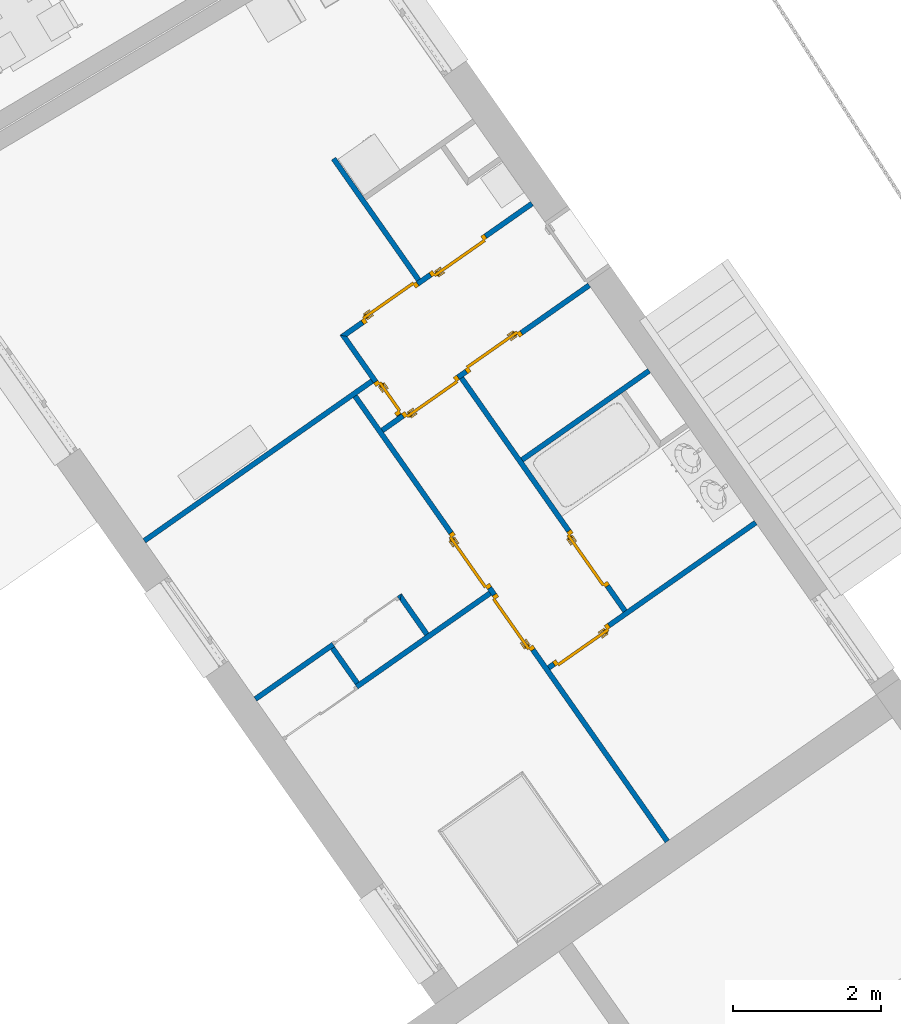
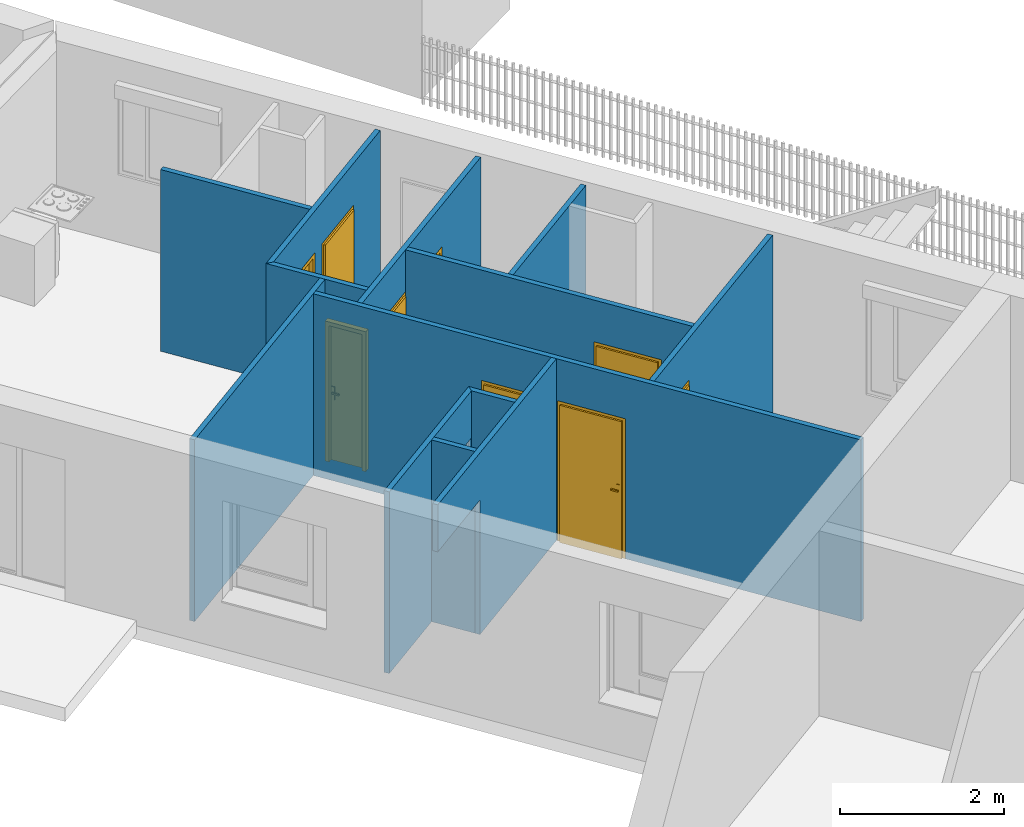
# One storey, part 30 of 195: 13 walls, 9 doors, 11 openings.
"""IFC2X3 building model written with IfcOpenShell, lengths in metres."""

from ifc_helpers import new_model, entity, si_unit, converted_unit, derived_unit, money_unit, direction, frame, origin_with_axes, origin_2d_with_axis, place, context, subcontext, project, spatial, polyline, rectangle, outline, extrude, faceted_brep, source, transform, mapped, material, layer, layer_set, layer_usage, type_object, element, fill, save


model = new_model("IFC2X3")

# Units and contexts
model_context = context("Model", 3, precision=1e-05, world=origin_with_axes(), true_north=direction((0.0, 1.0)))
body_context = subcontext(model_context, "Body", "Model", "MODEL_VIEW")
ifc_project = project(units=[si_unit("LENGTHUNIT", "METRE"), si_unit("AREAUNIT", "SQUARE_METRE"), si_unit("VOLUMEUNIT", "CUBIC_METRE"), converted_unit("PLANEANGLEUNIT", "DEGREE", entity("IfcPlaneAngleMeasure", 0.0174532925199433), si_unit("PLANEANGLEUNIT", "RADIAN"), dimensions=[0, 0, 0, 0, 0, 0, 0]), money_unit("CHF"), converted_unit("TIMEUNIT", "Year", entity("IfcTimeMeasure", 31557600.0), si_unit("TIMEUNIT", "SECOND"), dimensions=[0, 0, 1, 0, 0, 0, 0]), si_unit("MASSUNIT", "GRAM", prefix="KILO"), si_unit("THERMODYNAMICTEMPERATUREUNIT", "DEGREE_CELSIUS"), si_unit("LUMINOUSINTENSITYUNIT", "LUMEN"), si_unit("ENERGYUNIT", "JOULE", prefix="MEGA"), derived_unit("THERMALCONDUCTANCEUNIT", [(si_unit("POWERUNIT", "WATT"), 1), (si_unit("LENGTHUNIT", "METRE"), -1), (si_unit("THERMODYNAMICTEMPERATUREUNIT", "KELVIN"), -1)]), derived_unit("SPECIFICHEATCAPACITYUNIT", [(si_unit("ENERGYUNIT", "JOULE"), 1), (si_unit("MASSUNIT", "GRAM", prefix="KILO"), -1), (si_unit("THERMODYNAMICTEMPERATUREUNIT", "KELVIN"), -1)]), derived_unit("MASSDENSITYUNIT", [(si_unit("MASSUNIT", "GRAM", prefix="KILO"), 1), (si_unit("VOLUMEUNIT", "CUBIC_METRE"), -1)])], contexts=[model_context])

# Site, building, storey
site_placement = place(None, origin_with_axes())
site = spatial("IfcSite", under=ifc_project, at=site_placement, Name="Site", CompositionType="ELEMENT")
building_placement = place(site_placement, origin_with_axes())
building = spatial("IfcBuilding", under=site, at=building_placement, Name="Bâtiment", CompositionType="ELEMENT")
storey_placement = place(building_placement, origin_with_axes())
storey = spatial("IfcBuildingStorey", under=building, at=storey_placement, Name="rdc", CompositionType="ELEMENT", Elevation=0.0)

# Wall, opening
ifc_material = material(Name="Hachure solide 268963992")
ifc_layer = layer(ifc_material, 0.07, ventilated="UNKNOWN")
ifc_layer_set = layer_set([ifc_layer], Name="Cloison 70 0826278243")
ifc_layer_usage_1 = layer_usage(ifc_layer_set, "AXIS2", "POSITIVE", 0.0)
wall_type = type_object("IfcWallType", Name="Cloison 70 0826278243 70", PredefinedType="NOTDEFINED")
wall_1_placement = place(storey_placement, frame((9550.281326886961, -1060.504089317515, 57.7), z_axis=(0.0, 0.0, 1.0), x_axis=(-0.8187432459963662, -0.5741598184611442, 0.0)))
wall_1 = element("IfcWallStandardCase", 1, at=wall_1_placement, inside=storey, type_object=wall_type, material=ifc_layer_usage_1, Name="Mur-149", context=body_context, shape_type="SweptSolid", body=[
    extrude(outline(polyline([(-0.06999999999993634, 0.0), (2.366839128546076, 0.0), (2.366839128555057, 0.07000000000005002), (0.0, 0.07000000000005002), (-0.06999999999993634, 0.0)])), origin_with_axes(), (0.0, 0.0, 1.0), 2.7),
])
opening_1_placement = place(wall_1_placement, frame((0.5401857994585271, 0.0, 0.0), z_axis=(0.0, 0.0, 1.0), x_axis=(1.0, 0.0, 0.0)))
element("IfcOpeningElement", 2, at=opening_1_placement, cuts=wall_1, Name="Por-346", context=body_context, shape_type="SweptSolid", body=[
    extrude(rectangle(XDim=1.080371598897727, YDim=2.0, at=origin_2d_with_axis()), frame((0.0, 0.0, 1.0), z_axis=(0.0, 1.0, 0.0), x_axis=(1.0, 0.0, 0.0)), (0.0, 0.0, -1.0), 0.07),
    extrude(rectangle(XDim=1.080371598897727, YDim=2.0, at=origin_2d_with_axis()), frame((0.0, 0.0, 1.0), z_axis=(0.0, -1.0, 0.0), x_axis=(1.0, 0.0, 0.0)), (0.0, 0.0, -1.0), 0.07),
])

# Wall
ifc_layer_usage_2 = layer_usage(ifc_layer_set, "AXIS2", "POSITIVE", 0.0)
wall_2_placement = place(storey_placement, frame((9549.339467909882, -1061.164586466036, 57.7), z_axis=(0.0, 0.0, 1.0), x_axis=(0.5741598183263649, -0.8187432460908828, 0.0)))
element("IfcWallStandardCase", 3, at=wall_2_placement, inside=storey, type_object=wall_type, material=ifc_layer_usage_2, Name="Mur-149", context=body_context, shape_type="SweptSolid", body=[
    extrude(outline(polyline([(0.06999999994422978, 0.0), (0.649992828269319, 0.0), (0.6499928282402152, 0.06999999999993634), (0.06999999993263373, 0.07000000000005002), (0.06999999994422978, 0.0)])), origin_with_axes(), (0.0, 0.0, 1.0), 2.7),
])

# Wall, opening
ifc_layer_usage_3 = layer_usage(ifc_layer_set, "AXIS2", "POSITIVE", 0.0)
wall_3_placement = place(storey_placement, frame((9551.575044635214, -1060.390735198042, 57.7), z_axis=(0.0, 0.0, 1.0), x_axis=(-0.8187432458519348, -0.574159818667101, 0.0)))
wall_3 = element("IfcWallStandardCase", 4, at=wall_3_placement, inside=storey, type_object=wall_type, material=ifc_layer_usage_3, Name="Mur-149", context=body_context, shape_type="SweptSolid", body=[
    extrude(outline(polyline([(0.06999999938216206, 0.0), (3.491145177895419, 0.0), (3.491145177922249, 0.07000000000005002), (0.06999999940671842, 0.07000000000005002), (0.06999999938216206, 0.0)])), origin_with_axes(), (0.0, 0.0, 1.0), 2.7),
])
opening_2_placement = place(wall_3_placement, frame((2.882911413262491, 0.0, 0.0), z_axis=(0.0, 0.0, 1.0), x_axis=(1.0, 0.0, 0.0)))
element("IfcOpeningElement", 5, at=opening_2_placement, cuts=wall_3, Name="Por-345", context=body_context, shape_type="SweptSolid", body=[
    extrude(rectangle(XDim=1.216467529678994, YDim=2.0, at=origin_2d_with_axis()), frame((0.0, 0.06999999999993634, 1.0), z_axis=(0.0, -1.0, 0.0), x_axis=(1.0, 0.0, 0.0)), (0.0, 0.0, -1.0), 0.07),
    extrude(rectangle(XDim=1.216467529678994, YDim=2.0, at=origin_2d_with_axis()), frame((0.0, 0.06999999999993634, 1.0), z_axis=(0.0, 1.0, 0.0), x_axis=(1.0, 0.0, 0.0)), (0.0, 0.0, -1.0), 0.07),
])

# Walls
ifc_layer_usage_4 = layer_usage(ifc_layer_set, "AXIS2", "POSITIVE", 0.0)
wall_4_placement = place(storey_placement, frame((9550.281326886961, -1060.504089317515, 57.7), z_axis=(0.0, 0.0, 1.0), x_axis=(0.5741598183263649, -0.8187432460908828, 0.0)))
element("IfcWallStandardCase", 6, at=wall_4_placement, inside=storey, type_object=wall_type, material=ifc_layer_usage_4, Name="Mur-149", context=body_context, shape_type="SweptSolid", body=[
    extrude(outline(polyline([(0.06999999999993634, 0.0), (0.6499928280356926, 0.0), (0.6499928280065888, 0.06999999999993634), (0.0, 0.06999999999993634), (0.06999999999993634, 0.0)])), origin_with_axes(), (0.0, 0.0, 1.0), 2.7),
])
ifc_layer_usage_5 = layer_usage(ifc_layer_set, "AXIS2", "POSITIVE", 0.0)
wall_5_placement = place(storey_placement, frame((9553.980375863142, -1057.204478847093, 57.7), z_axis=(0.0, 0.0, 1.0), x_axis=(-0.8187432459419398, -0.5741598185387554, 0.0)))
element("IfcWallStandardCase", 7, at=wall_5_placement, inside=storey, type_object=wall_type, material=ifc_layer_usage_5, Name="Mur-149", context=body_context, shape_type="SweptSolid", body=[
    extrude(outline(polyline([(0.3799999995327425, 0.0), (2.478769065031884, 0.0), (2.478769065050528, 0.07000000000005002), (0.3799999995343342, 0.07000000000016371), (0.3799999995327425, 0.0)])), origin_with_axes(), (0.0, 0.0, 1.0), 2.7),
])
ifc_layer_usage_6 = layer_usage(ifc_layer_set, "AXIS2", "POSITIVE", 0.0)
wall_6_placement = place(storey_placement, frame((9550.600009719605, -1056.203730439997, 57.7), z_axis=(0.0, 0.0, 1.0), x_axis=(-0.5741598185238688, 0.8187432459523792, 0.0)))
element("IfcWallStandardCase", 8, at=wall_6_placement, inside=storey, type_object=wall_type, material=ifc_layer_usage_6, Name="Mur-149", context=body_context, shape_type="SweptSolid", body=[
    extrude(outline(polyline([(-1.513740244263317e-09, 0.0), (2.003969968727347, 0.0), (2.003969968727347, 0.06999999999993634), (-1.521243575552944e-09, 0.06999999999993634), (-1.513740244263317e-09, 0.0)])), origin_with_axes(), (0.0, 0.0, 1.0), 2.7),
])

# Wall, openings, doors
ifc_layer_usage_7 = layer_usage(ifc_layer_set, "AXIS2", "POSITIVE", 0.0)
wall_7_placement = place(storey_placement, frame((9553.169819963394, -1056.048638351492, 57.7), z_axis=(0.0, 0.0, 1.0), x_axis=(-0.8187432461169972, -0.574159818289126, 0.0)))
wall_7 = element("IfcWallStandardCase", 9, at=wall_7_placement, inside=storey, type_object=wall_type, material=ifc_layer_usage_7, Name="Mur-149", context=body_context, shape_type="SweptSolid", body=[
    extrude(outline(polyline([(0.3800000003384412, 0.0), (3.798769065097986, 0.0), (3.798769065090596, 0.07000000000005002), (0.380000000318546, 0.07000000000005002), (0.3800000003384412, 0.0)])), origin_with_axes(), (0.0, 0.0, 1.0), 2.7),
])
opening_3_placement = place(wall_7_placement, frame((1.956257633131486, 0.0, 0.0), z_axis=(0.0, 0.0, 1.0), x_axis=(1.0, 0.0, 0.0)))
opening_3 = element("IfcOpeningElement", 10, at=opening_3_placement, cuts=wall_7, Name="Por-299", context=body_context, shape_type="SweptSolid", body=[
    extrude(rectangle(XDim=0.9099999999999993, YDim=2.079999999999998, at=origin_2d_with_axis()), frame((0.0, 0.07000000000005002, 1.039999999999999), z_axis=(0.0, 1.0, 0.0), x_axis=(1.0, 0.0, 0.0)), (0.0, 0.0, -1.0), 0.14),
])
opening_4_placement = place(wall_7_placement, frame((3.002404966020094, 0.0, 0.0), z_axis=(0.0, 0.0, 1.0), x_axis=(1.0, 0.0, 0.0)))
opening_4 = element("IfcOpeningElement", 11, at=opening_4_placement, cuts=wall_7, Name="Por-299", context=body_context, shape_type="SweptSolid", body=[
    extrude(rectangle(XDim=0.9099999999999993, YDim=2.079999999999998, at=origin_2d_with_axis()), frame((0.0, -0.06999999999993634, 1.039999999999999), z_axis=(0.0, -1.0, 0.0), x_axis=(-1.0, 0.0, 0.0)), (0.0, 0.0, -1.0), 0.14),
])
door_style = type_object("IfcDoorStyle", Name="Porte_1v", ConstructionType="NOTDEFINED", OperationType="NOTDEFINED", ParameterTakesPrecedence=False, Sizeable=False)
shared_shape_1 = source(origin_with_axes(), body_context, "Body", "Brep", [
    faceted_brep([(-0.455, 0.0, 0.0), (-0.455, 0.0, 2.08), (0.455, 0.0, 2.08), (0.455, 0.0, 0.0), (0.415, 0.0, 0.0), (0.415, 0.0, 2.04), (-0.415, 0.0, 2.04), (-0.415, 0.0, 0.0), (-0.455, -0.07, 0.0), (-0.455, -0.07, 2.08), (0.455, -0.07, 2.08), (0.455, -0.07, 0.0), (0.4, -0.07, 0.0), (0.4, -0.015, 0.0), (0.415, -0.015, 0.0), (0.415, -0.015, 2.04), (-0.415, -0.015, 2.04), (-0.415, -0.015, 0.0), (-0.4, -0.015, 0.0), (-0.4, -0.07, 0.0), (-0.4, -0.07, 2.025), (0.4, -0.07, 2.025), (0.4, -0.015, 2.025), (-0.4, -0.015, 2.025)], [[[0, 1, 2, 3, 4, 5, 6, 7]], [[8, 9, 1, 0]], [[9, 10, 2, 1]], [[10, 11, 3, 2]], [[3, 11, 12, 13, 14, 4]], [[5, 4, 14, 15]], [[6, 5, 15, 16]], [[7, 6, 16, 17]], [[0, 7, 17, 18, 19, 8]], [[19, 20, 21, 12, 11, 10, 9, 8]], [[22, 13, 12, 21]], [[17, 16, 15, 14, 13, 22, 23, 18]], [[18, 23, 20, 19]], [[23, 22, 21, 20]]]),
    faceted_brep([(0.35, -0.015, 0.9), (0.35, -0.015, 1.1), (0.39, -0.015, 1.1), (0.39, -0.015, 0.9), (0.35, -0.025, 0.9), (0.35, -0.025, 1.1), (0.39, -0.025, 1.1), (0.39, -0.025, 0.9)], [[[0, 1, 2, 3]], [[0, 4, 5, 1]], [[1, 5, 6, 2]], [[2, 6, 7, 3]], [[3, 7, 4, 0]], [[7, 6, 5, 4]]]),
    faceted_brep([(0.28, -0.025, 1.0), (0.28, -0.025, 1.02), (0.38, -0.025, 1.02), (0.38, -0.025, 1.0), (0.28, -0.045, 1.0), (0.28, -0.045, 1.02), (0.38, -0.045, 1.02), (0.38, -0.045, 1.0)], [[[0, 1, 2, 3]], [[0, 4, 5, 1]], [[1, 5, 6, 2]], [[2, 6, 7, 3]], [[3, 7, 4, 0]], [[7, 6, 5, 4]]]),
    faceted_brep([(0.35, 0.035, 0.9), (0.35, 0.035, 1.1), (0.39, 0.035, 1.1), (0.39, 0.035, 0.9), (0.35, 0.025, 0.9), (0.35, 0.025, 1.1), (0.39, 0.025, 1.1), (0.39, 0.025, 0.9)], [[[0, 1, 2, 3]], [[0, 4, 5, 1]], [[1, 5, 6, 2]], [[2, 6, 7, 3]], [[3, 7, 4, 0]], [[7, 6, 5, 4]]]),
    faceted_brep([(0.28, 0.05500000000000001, 1.0), (0.28, 0.05500000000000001, 1.02), (0.38, 0.05500000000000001, 1.02), (0.38, 0.05500000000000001, 1.0), (0.28, 0.035, 1.0), (0.28, 0.035, 1.02), (0.38, 0.035, 1.02), (0.38, 0.035, 1.0)], [[[0, 1, 2, 3]], [[0, 4, 5, 1]], [[1, 5, 6, 2]], [[2, 6, 7, 3]], [[3, 7, 4, 0]], [[7, 6, 5, 4]]]),
    faceted_brep([(0.415, 0.025, 0.0), (0.415, -0.015, 0.0), (-0.415, -0.015, 0.0), (-0.415, 0.025, 0.0), (0.415, 0.025, 2.04), (0.415, -0.015, 2.04), (-0.415, -0.015, 2.04), (-0.415, 0.025, 2.04)], [[[0, 1, 2, 3]], [[4, 5, 1, 0]], [[1, 5, 6, 2]], [[3, 2, 6, 7]], [[0, 3, 7, 4]], [[7, 6, 5, 4]]]),
])
door_1_placement = place(opening_3_placement, frame((0.4149999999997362, 0.0, 0.0), z_axis=(0.0, 0.0, 1.0), x_axis=(-1.0, 0.0, 0.0)))
door_1 = element("IfcDoor", 12, at=door_1_placement, inside=storey, type_object=door_style, Name="Por-299", OverallHeight=2.04, OverallWidth=0.83, context=body_context, shape_type="MappedRepresentation", body=[
    mapped(shared_shape_1, transform((0.4149999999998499, 0.0, 0.0))),
])
fill(opening_3, door_1)
door_2_placement = place(opening_4_placement, frame((-0.4150000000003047, 0.0, 0.0), z_axis=(0.0, 0.0, 1.0), x_axis=(1.0, 0.0, 0.0)))
door_2 = element("IfcDoor", 13, at=door_2_placement, inside=storey, type_object=door_style, Name="Por-299", OverallHeight=2.04, OverallWidth=0.83, context=body_context, shape_type="MappedRepresentation", body=[
    mapped(shared_shape_1, transform((0.4150000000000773, 0.06999999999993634, 0.0))),
])
fill(opening_4, door_2)

ifc_layer_usage_8 = layer_usage(ifc_layer_set, "AXIS2", "NEGATIVE", 0.0)
wall_8_placement = place(storey_placement, frame((9549.50640893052, -1056.970639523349, 57.7), z_axis=(0.0, 0.0, 1.0), x_axis=(0.8187432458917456, 0.5741598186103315, 0.0)))
wall_8 = element("IfcWallStandardCase", 14, at=wall_8_placement, inside=storey, type_object=wall_type, material=ifc_layer_usage_8, Name="Mur-149", context=body_context, shape_type="SweptSolid", body=[
    extrude(outline(polyline([(0.0700000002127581, -0.07000000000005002), (3.148769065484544, -0.07000000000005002), (3.148769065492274, 0.0), (1.907665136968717e-10, 0.0), (0.0700000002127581, -0.07000000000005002)])), origin_with_axes(), (0.0, 0.0, 1.0), 2.7),
])
opening_5_placement = place(wall_8_placement, frame((1.926126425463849, 0.0, 0.0), z_axis=(0.0, 0.0, 1.0), x_axis=(1.0, 0.0, 0.0)))
opening_5 = element("IfcOpeningElement", 15, at=opening_5_placement, cuts=wall_8, Name="Por-299", context=body_context, shape_type="SweptSolid", body=[
    extrude(rectangle(XDim=0.9099999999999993, YDim=2.079999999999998, at=origin_2d_with_axis()), frame((0.0, 0.06999999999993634, 1.039999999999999), z_axis=(0.0, 1.0, 0.0), x_axis=(1.0, 0.0, 0.0)), (0.0, 0.0, -1.0), 0.14),
])
opening_6_placement = place(wall_8_placement, frame((0.8050034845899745, 0.0, 0.0), z_axis=(0.0, 0.0, 1.0), x_axis=(1.0, 0.0, 0.0)))
opening_6 = element("IfcOpeningElement", 16, at=opening_6_placement, cuts=wall_8, Name="Por-299", context=body_context, shape_type="SweptSolid", body=[
    extrude(rectangle(XDim=0.9099999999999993, YDim=2.079999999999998, at=origin_2d_with_axis()), frame((0.0, -0.07000000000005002, 1.039999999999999), z_axis=(0.0, 1.0, 0.0), x_axis=(1.0, 0.0, 0.0)), (0.0, 0.0, 1.0), 0.14),
])
shared_shape_2 = source(origin_with_axes(), body_context, "Body", "Brep", [
    faceted_brep([(0.455, 0.0, 0.0), (0.415, 0.0, 0.0), (0.415, 0.0, 2.04), (-0.415, 0.0, 2.04), (-0.415, 0.0, 0.0), (-0.455, 0.0, 0.0), (-0.455, 0.0, 2.08), (0.455, 0.0, 2.08), (0.455, -0.07, 0.0), (0.4, -0.07, 0.0), (0.4, -0.015, 0.0), (0.415, -0.015, 0.0), (0.415, -0.015, 2.04), (-0.415, -0.015, 2.04), (-0.415, -0.015, 0.0), (-0.4, -0.015, 0.0), (-0.4, -0.07, 0.0), (-0.455, -0.07, 0.0), (-0.455, -0.07, 2.08), (0.455, -0.07, 2.08), (-0.4, -0.07, 2.025), (0.4, -0.07, 2.025), (0.4, -0.015, 2.025), (-0.4, -0.015, 2.025)], [[[0, 1, 2, 3, 4, 5, 6, 7]], [[0, 8, 9, 10, 11, 1]], [[1, 11, 12, 2]], [[2, 12, 13, 3]], [[3, 13, 14, 4]], [[5, 4, 14, 15, 16, 17]], [[18, 6, 5, 17]], [[19, 7, 6, 18]], [[8, 0, 7, 19]], [[9, 8, 19, 18, 17, 16, 20, 21]], [[10, 9, 21, 22]], [[11, 10, 22, 23, 15, 14, 13, 12]], [[23, 20, 16, 15]], [[22, 21, 20, 23]]]),
    faceted_brep([(-0.35, -0.015, 0.9), (-0.39, -0.015, 0.9), (-0.39, -0.015, 1.1), (-0.35, -0.015, 1.1), (-0.35, -0.025, 0.9), (-0.39, -0.025, 0.9), (-0.39, -0.025, 1.1), (-0.35, -0.025, 1.1)], [[[0, 1, 2, 3]], [[1, 0, 4, 5]], [[2, 1, 5, 6]], [[3, 2, 6, 7]], [[0, 3, 7, 4]], [[5, 4, 7, 6]]]),
    faceted_brep([(-0.28, -0.025, 1.0), (-0.38, -0.025, 1.0), (-0.38, -0.025, 1.02), (-0.28, -0.025, 1.02), (-0.28, -0.045, 1.0), (-0.38, -0.045, 1.0), (-0.38, -0.045, 1.02), (-0.28, -0.045, 1.02)], [[[0, 1, 2, 3]], [[1, 0, 4, 5]], [[2, 1, 5, 6]], [[3, 2, 6, 7]], [[0, 3, 7, 4]], [[5, 4, 7, 6]]]),
    faceted_brep([(-0.35, 0.035, 0.9), (-0.39, 0.035, 0.9), (-0.39, 0.035, 1.1), (-0.35, 0.035, 1.1), (-0.35, 0.025, 0.9), (-0.39, 0.025, 0.9), (-0.39, 0.025, 1.1), (-0.35, 0.025, 1.1)], [[[0, 1, 2, 3]], [[1, 0, 4, 5]], [[2, 1, 5, 6]], [[3, 2, 6, 7]], [[0, 3, 7, 4]], [[5, 4, 7, 6]]]),
    faceted_brep([(-0.28, 0.05500000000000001, 1.0), (-0.38, 0.05500000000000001, 1.0), (-0.38, 0.05500000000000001, 1.02), (-0.28, 0.05500000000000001, 1.02), (-0.28, 0.035, 1.0), (-0.38, 0.035, 1.0), (-0.38, 0.035, 1.02), (-0.28, 0.035, 1.02)], [[[0, 1, 2, 3]], [[1, 0, 4, 5]], [[2, 1, 5, 6]], [[3, 2, 6, 7]], [[0, 3, 7, 4]], [[5, 4, 7, 6]]]),
    faceted_brep([(-0.415, 0.025, 0.0), (0.415, 0.025, 0.0), (0.415, -0.015, 0.0), (-0.415, -0.015, 0.0), (-0.415, 0.025, 2.04), (0.415, 0.025, 2.04), (0.415, -0.015, 2.04), (-0.415, -0.015, 2.04)], [[[0, 1, 2, 3]], [[0, 4, 5, 1]], [[1, 5, 6, 2]], [[3, 2, 6, 7]], [[4, 0, 3, 7]], [[5, 4, 7, 6]]]),
])
door_3_placement = place(opening_6_placement, frame((-0.415000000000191, 0.0, 0.0), z_axis=(0.0, 0.0, 1.0), x_axis=(1.0, 0.0, 0.0)))
door_3 = element("IfcDoor", 17, at=door_3_placement, inside=storey, type_object=door_style, Name="Por-299", OverallHeight=2.04, OverallWidth=0.83, context=body_context, shape_type="MappedRepresentation", body=[
    mapped(shared_shape_2, transform((0.4149999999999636, 0.0, 0.0))),
])
fill(opening_6, door_3)
door_4_placement = place(opening_5_placement, frame((0.4149999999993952, 0.0, 0.0), z_axis=(0.0, 0.0, 1.0), x_axis=(-1.0, 0.0, 0.0)))
door_4 = element("IfcDoor", 18, at=door_4_placement, inside=storey, type_object=door_style, Name="Por-299", OverallHeight=2.04, OverallWidth=0.83, context=body_context, shape_type="MappedRepresentation", body=[
    mapped(shared_shape_1, transform((0.4149999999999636, 0.07000000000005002, 0.0))),
])
fill(opening_5, door_4)

# Wall, opening, door
ifc_layer_usage_9 = layer_usage(ifc_layer_set, "AXIS2", "POSITIVE", 0.0)
wall_9_placement = place(storey_placement, frame((9553.391102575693, -1060.681394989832, 57.7), z_axis=(0.0, 0.0, 1.0), x_axis=(-0.5741598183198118, 0.8187432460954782, 0.0)))
wall_9 = element("IfcWallStandardCase", 19, at=wall_9_placement, inside=storey, type_object=wall_type, material=ifc_layer_usage_9, Name="Mur-149", context=body_context, shape_type="SweptSolid", body=[
    extrude(outline(polyline([(-1.739181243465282e-09, 0.0), (3.850089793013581, 0.0), (3.850089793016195, 0.07000000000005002), (-1.784428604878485e-09, 0.06999999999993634), (-1.739181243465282e-09, 0.0)])), origin_with_axes(), (0.0, 0.0, 1.0), 2.7),
])
opening_7_placement = place(wall_9_placement, frame((0.8689503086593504, 0.0, 0.0), z_axis=(0.0, 0.0, 1.0), x_axis=(1.0, 0.0, 0.0)))
opening_7 = element("IfcOpeningElement", 20, at=opening_7_placement, cuts=wall_9, Name="Por-299", context=body_context, shape_type="SweptSolid", body=[
    extrude(rectangle(XDim=0.9099999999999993, YDim=2.079999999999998, at=origin_2d_with_axis()), frame((0.0, -0.07000000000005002, 1.039999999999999), z_axis=(0.0, -1.0, 0.0), x_axis=(-1.0, 0.0, 0.0)), (0.0, 0.0, -1.0), 0.14),
])
door_5_placement = place(opening_7_placement, frame((-0.4150000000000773, 0.0, 0.0), z_axis=(0.0, 0.0, 1.0), x_axis=(1.0, 0.0, 0.0)))
door_5 = element("IfcDoor", 21, at=door_5_placement, inside=storey, type_object=door_style, Name="Por-299", OverallHeight=2.04, OverallWidth=0.83, context=body_context, shape_type="MappedRepresentation", body=[
    mapped(shared_shape_1, transform((0.4149999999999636, 0.06999999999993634, 0.0))),
])
fill(opening_7, door_5)

ifc_layer_usage_10 = layer_usage(ifc_layer_set, "AXIS2", "POSITIVE", 0.0)
wall_10_placement = place(storey_placement, frame((9549.506408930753, -1056.970639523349, 57.7), z_axis=(0.0, 0.0, 1.0), x_axis=(0.5741598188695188, -0.8187432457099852, 0.0)))
wall_10 = element("IfcWallStandardCase", 22, at=wall_10_placement, inside=storey, type_object=wall_type, material=ifc_layer_usage_10, Name="Mur-149", context=body_context, shape_type="SweptSolid", body=[
    extrude(outline(polyline([(-1.335820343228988e-10, 0.0), (1.34850118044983, 0.0), (1.348501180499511, 0.07000000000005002), (0.06999999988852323, 0.06999999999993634), (-1.335820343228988e-10, 0.0)])), origin_with_axes(), (0.0, 0.0, 1.0), 2.7),
])
opening_8_placement = place(wall_10_placement, frame((1.067283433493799, 0.0, 0.0), z_axis=(0.0, 0.0, 1.0), x_axis=(1.0, 0.0, 0.0)))
opening_8 = element("IfcOpeningElement", 23, at=opening_8_placement, cuts=wall_10, Name="Por-320", context=body_context, shape_type="SweptSolid", body=[
    extrude(rectangle(XDim=0.547405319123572, YDim=2.079999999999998, at=origin_2d_with_axis()), frame((-2.722799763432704e-09, -0.07000000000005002, 1.039999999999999), z_axis=(0.0, 1.0, 0.0), x_axis=(1.0, 0.0, 0.0)), (0.0, 0.0, 1.0), 0.14),
])
shared_shape_3 = source(origin_with_axes(), body_context, "Body", "Brep", [
    faceted_brep([(0.2737026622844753, 0.0, 0.0), (0.2337026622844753, 0.0, 0.0), (0.2337026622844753, 0.0, 2.04), (-0.2337026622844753, 0.0, 2.04), (-0.2337026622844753, 0.0, 0.0), (-0.2737026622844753, 0.0, 0.0), (-0.2737026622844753, 0.0, 2.08), (0.2737026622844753, 0.0, 2.08), (0.2737026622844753, -0.07, 0.0), (0.2187026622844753, -0.07, 0.0), (0.2187026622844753, -0.015, 0.0), (0.2337026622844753, -0.015, 0.0), (0.2337026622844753, -0.015, 2.04), (-0.2337026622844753, -0.015, 2.04), (-0.2337026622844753, -0.015, 0.0), (-0.2187026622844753, -0.015, 0.0), (-0.2187026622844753, -0.07, 0.0), (-0.2737026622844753, -0.07, 0.0), (-0.2737026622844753, -0.07, 2.08), (0.2737026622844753, -0.07, 2.08), (-0.2187026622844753, -0.07, 2.025), (0.2187026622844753, -0.07, 2.025), (0.2187026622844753, -0.015, 2.025), (-0.2187026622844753, -0.015, 2.025)], [[[0, 1, 2, 3, 4, 5, 6, 7]], [[0, 8, 9, 10, 11, 1]], [[1, 11, 12, 2]], [[2, 12, 13, 3]], [[3, 13, 14, 4]], [[5, 4, 14, 15, 16, 17]], [[18, 6, 5, 17]], [[19, 7, 6, 18]], [[8, 0, 7, 19]], [[9, 8, 19, 18, 17, 16, 20, 21]], [[10, 9, 21, 22]], [[11, 10, 22, 23, 15, 14, 13, 12]], [[23, 20, 16, 15]], [[22, 21, 20, 23]]]),
    faceted_brep([(-0.1687026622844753, -0.015, 0.9), (-0.2087026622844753, -0.015, 0.9), (-0.2087026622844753, -0.015, 1.1), (-0.1687026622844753, -0.015, 1.1), (-0.1687026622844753, -0.025, 0.9), (-0.2087026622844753, -0.025, 0.9), (-0.2087026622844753, -0.025, 1.1), (-0.1687026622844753, -0.025, 1.1)], [[[0, 1, 2, 3]], [[1, 0, 4, 5]], [[2, 1, 5, 6]], [[3, 2, 6, 7]], [[0, 3, 7, 4]], [[5, 4, 7, 6]]]),
    faceted_brep([(-0.0987026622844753, -0.025, 1.0), (-0.1987026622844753, -0.025, 1.0), (-0.1987026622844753, -0.025, 1.02), (-0.0987026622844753, -0.025, 1.02), (-0.0987026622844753, -0.045, 1.0), (-0.1987026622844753, -0.045, 1.0), (-0.1987026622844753, -0.045, 1.02), (-0.0987026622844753, -0.045, 1.02)], [[[0, 1, 2, 3]], [[1, 0, 4, 5]], [[2, 1, 5, 6]], [[3, 2, 6, 7]], [[0, 3, 7, 4]], [[5, 4, 7, 6]]]),
    faceted_brep([(-0.1687026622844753, 0.035, 0.9), (-0.2087026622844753, 0.035, 0.9), (-0.2087026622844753, 0.035, 1.1), (-0.1687026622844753, 0.035, 1.1), (-0.1687026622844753, 0.025, 0.9), (-0.2087026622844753, 0.025, 0.9), (-0.2087026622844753, 0.025, 1.1), (-0.1687026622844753, 0.025, 1.1)], [[[0, 1, 2, 3]], [[1, 0, 4, 5]], [[2, 1, 5, 6]], [[3, 2, 6, 7]], [[0, 3, 7, 4]], [[5, 4, 7, 6]]]),
    faceted_brep([(-0.0987026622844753, 0.05500000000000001, 1.0), (-0.1987026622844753, 0.05500000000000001, 1.0), (-0.1987026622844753, 0.05500000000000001, 1.02), (-0.0987026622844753, 0.05500000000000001, 1.02), (-0.0987026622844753, 0.035, 1.0), (-0.1987026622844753, 0.035, 1.0), (-0.1987026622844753, 0.035, 1.02), (-0.0987026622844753, 0.035, 1.02)], [[[0, 1, 2, 3]], [[1, 0, 4, 5]], [[2, 1, 5, 6]], [[3, 2, 6, 7]], [[0, 3, 7, 4]], [[5, 4, 7, 6]]]),
    faceted_brep([(-0.2337026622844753, 0.025, 0.0), (0.2337026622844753, 0.025, 0.0), (0.2337026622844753, -0.015, 0.0), (-0.2337026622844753, -0.015, 0.0), (-0.2337026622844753, 0.025, 2.04), (0.2337026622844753, 0.025, 2.04), (0.2337026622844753, -0.015, 2.04), (-0.2337026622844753, -0.015, 2.04)], [[[0, 1, 2, 3]], [[0, 4, 5, 1]], [[1, 5, 6, 2]], [[3, 2, 6, 7]], [[4, 0, 3, 7]], [[5, 4, 7, 6]]]),
])
door_6_placement = place(opening_8_placement, frame((-0.2337026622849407, 0.0, 0.0), z_axis=(0.0, 0.0, 1.0), x_axis=(1.0, 0.0, 0.0)))
door_6 = element("IfcDoor", 24, at=door_6_placement, inside=storey, type_object=door_style, Name="Por-320", OverallHeight=2.04, OverallWidth=0.467405, context=body_context, shape_type="MappedRepresentation", body=[
    mapped(shared_shape_3, transform((0.233702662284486, 0.07000000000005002, 0.0))),
])
fill(opening_8, door_6)

# Wall
ifc_layer_usage_11 = layer_usage(ifc_layer_set, "AXIS2", "NEGATIVE", 0.0)
wall_11_placement = place(storey_placement, frame((9549.9620568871, -1057.620386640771, 57.7), z_axis=(0.0, 0.0, 1.0), x_axis=(-0.8187432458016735, -0.5741598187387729, 0.0)))
element("IfcWallStandardCase", 25, at=wall_11_placement, inside=storey, type_object=wall_type, material=ifc_layer_usage_11, Name="Mur-149", context=body_context, shape_type="SweptSolid", body=[
    extrude(outline(polyline([(-5.583160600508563e-10, -0.07000000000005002), (3.761145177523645, -0.07000000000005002), (3.761145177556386, 0.0), (-5.695710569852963e-10, 0.0), (-5.583160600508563e-10, -0.07000000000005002)])), origin_with_axes(), (0.0, 0.0, 1.0), 2.7),
])

# Wall, openings, doors
ifc_layer_usage_12 = layer_usage(ifc_layer_set, "AXIS2", "POSITIVE", 0.0)
wall_12_placement = place(storey_placement, frame((9553.962821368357, -1063.795668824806, 57.7), z_axis=(0.0, 0.0, 1.0), x_axis=(-0.5741598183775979, 0.8187432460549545, 0.0)))
wall_12 = element("IfcWallStandardCase", 26, at=wall_12_placement, inside=storey, type_object=wall_type, material=ifc_layer_usage_12, Name="Mur-149", context=body_context, shape_type="SweptSolid", body=[
    extrude(outline(polyline([(-1.352873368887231e-10, 0.0), (7.353048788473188, 0.0), (7.353048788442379, 0.07000000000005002), (-1.30285116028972e-10, 0.07000000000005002), (-1.352873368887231e-10, 0.0)])), origin_with_axes(), (0.0, 0.0, 1.0), 2.7),
])
opening_9_placement = place(wall_12_placement, frame((3.618434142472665, 0.0, 0.0), z_axis=(0.0, 0.0, 1.0), x_axis=(1.0, 0.0, 0.0)))
opening_9 = element("IfcOpeningElement", 27, at=opening_9_placement, cuts=wall_12, Name="Por-301", context=body_context, shape_type="SweptSolid", body=[
    extrude(rectangle(XDim=0.9099999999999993, YDim=2.079999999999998, at=origin_2d_with_axis()), frame((0.0, -0.06999999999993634, 1.039999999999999), z_axis=(0.0, 1.0, 0.0), x_axis=(1.0, 0.0, 0.0)), (0.0, 0.0, 1.0), 0.14),
])
opening_10_placement = place(wall_12_placement, frame((4.639635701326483, 0.0, 0.0), z_axis=(0.0, 0.0, 1.0), x_axis=(1.0, 0.0, 0.0)))
opening_10 = element("IfcOpeningElement", 28, at=opening_10_placement, cuts=wall_12, Name="Por-302", context=body_context, shape_type="SweptSolid", body=[
    extrude(rectangle(XDim=0.9099999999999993, YDim=2.079999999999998, at=origin_2d_with_axis()), frame((0.0, -0.06999999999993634, 1.039999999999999), z_axis=(0.0, -1.0, 0.0), x_axis=(-1.0, 0.0, 0.0)), (0.0, 0.0, -1.0), 0.14),
])
door_7_placement = place(opening_9_placement, frame((-0.4149999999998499, 0.0, 0.0), z_axis=(0.0, 0.0, 1.0), x_axis=(1.0, 0.0, 0.0)))
door_7 = element("IfcDoor", 29, at=door_7_placement, inside=storey, type_object=door_style, Name="Por-301", OverallHeight=2.04, OverallWidth=0.83, context=body_context, shape_type="MappedRepresentation", body=[
    mapped(shared_shape_2, transform((0.4149999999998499, 0.07000000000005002, 0.0))),
])
fill(opening_9, door_7)
door_8_placement = place(opening_10_placement, frame((-0.4150000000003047, 0.0, 0.0), z_axis=(0.0, 0.0, 1.0), x_axis=(1.0, 0.0, 0.0)))
door_8 = element("IfcDoor", 30, at=door_8_placement, inside=storey, type_object=door_style, Name="Por-302", OverallHeight=2.04, OverallWidth=0.83, context=body_context, shape_type="MappedRepresentation", body=[
    mapped(shared_shape_1, transform((0.4149999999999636, 0.06999999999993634, 0.0))),
])
fill(opening_10, door_8)

# Wall, opening, door
ifc_layer_usage_13 = layer_usage(ifc_layer_set, "AXIS2", "POSITIVE", 0.0)
wall_13_placement = place(storey_placement, frame((9555.420578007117, -1059.258185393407, 57.7), z_axis=(0.0, 0.0, 1.0), x_axis=(-0.8187432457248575, -0.5741598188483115, 0.0)))
wall_13 = element("IfcWallStandardCase", 31, at=wall_13_placement, inside=storey, type_object=wall_type, material=ifc_layer_usage_13, Name="Mur-149", context=body_context, shape_type="SweptSolid", body=[
    extrude(outline(polyline([(0.3799999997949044, 0.0), (3.79876906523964, 0.0), (3.798769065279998, 0.07000000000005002), (0.3799999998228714, 0.07000000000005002), (0.3799999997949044, 0.0)])), origin_with_axes(), (0.0, 0.0, 1.0), 2.7),
])
opening_11_placement = place(wall_13_placement, frame((3.258124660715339, 0.0, 0.0), z_axis=(0.0, 0.0, 1.0), x_axis=(1.0, 0.0, 0.0)))
opening_11 = element("IfcOpeningElement", 32, at=opening_11_placement, cuts=wall_13, Name="Por-303", context=body_context, shape_type="SweptSolid", body=[
    extrude(rectangle(XDim=0.9099999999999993, YDim=2.079999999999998, at=origin_2d_with_axis()), frame((0.0, -0.06999999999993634, 1.039999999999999), z_axis=(0.0, 1.0, 0.0), x_axis=(1.0, 0.0, 0.0)), (0.0, 0.0, 1.0), 0.14),
])
door_9_placement = place(opening_11_placement, frame((-0.4150000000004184, 0.0, 0.0), z_axis=(0.0, 0.0, 1.0), x_axis=(1.0, 0.0, 0.0)))
door_9 = element("IfcDoor", 33, at=door_9_placement, inside=storey, type_object=door_style, Name="Por-303", OverallHeight=2.04, OverallWidth=0.83, context=body_context, shape_type="MappedRepresentation", body=[
    mapped(shared_shape_2, transform((0.4149999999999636, 0.06999999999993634, 0.0))),
])
fill(opening_11, door_9)

save(model, "model.ifc")
